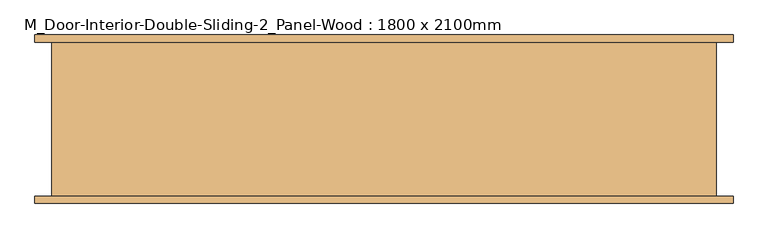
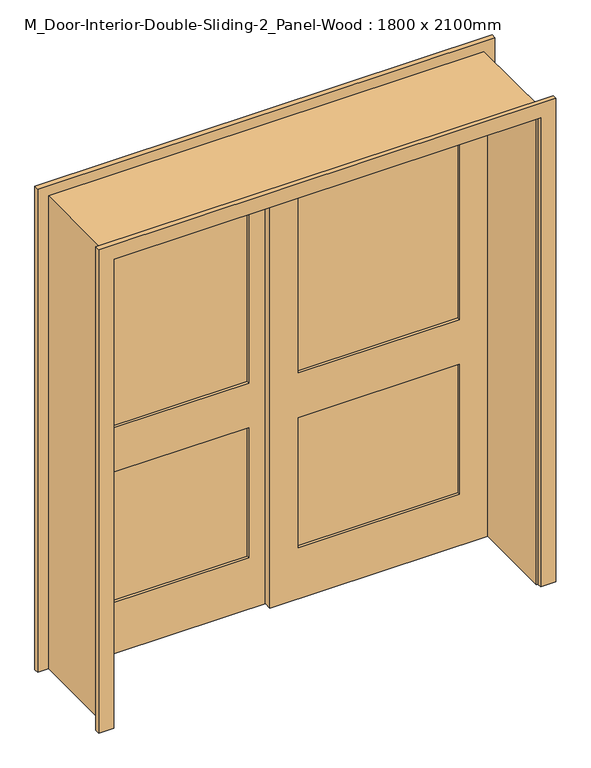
"""IFC4 building model written with IfcOpenShell, lengths in millimetres: door geometry, M_Door-Interior-Double-Sliding-2_Panel-Wood : 1800 x 2100mm."""

from ifc_helpers import new_model, si_unit, frame, origin, place, context, project, spatial, polyline, outline, extrude, source, transform, mapped, element, save


def m_door_interior_double_sliding_2_panel_wood_1800_x_2100mm_b8cd72e9(model_context):
    return source(origin(), model_context, "Body", "SweptSolid", [
        extrude(outline(polyline([(780.0, 152.9916667), (94.6, 152.9916667), (94.6, 164.6583333), (780.0, 164.6583333), (780.0, 152.9916667)])), frame((0.0, 0.0, 1014.4), z_axis=(0.0, 0.0, 1.0), x_axis=(1.0, 0.0, 0.0)), (0.0, 0.0, 1.0), 965.6),
        extrude(outline(polyline([(780.0, 152.9916667), (94.6, 152.9916667), (94.6, 164.6583333), (780.0, 164.6583333), (780.0, 152.9916667)])), frame((0.0, 0.0, 230.0), z_axis=(0.0, 0.0, 1.0), x_axis=(1.0, 0.0, 0.0)), (0.0, 0.0, 1.0), 584.4),
        extrude(outline(polyline([(2100.0, -25.4), (0.0, -25.4), (0.0, 900.0), (2100.0, 900.0), (2100.0, -25.4)]), holes=[polyline([(1980.0, 94.6), (1980.0, 780.0), (1014.4, 780.0), (1014.4, 94.6), (1980.0, 94.6)]), polyline([(814.4, 94.6), (814.4, 780.0), (230.0, 780.0), (230.0, 94.6), (814.4, 94.6)])]), frame((0.0, 141.325, 0.0), z_axis=(0.0, 1.0, 0.0), x_axis=(0.0, 0.0, 1.0)), (0.0, 0.0, 1.0), 35.0),
        extrude(outline(polyline([(-94.6, 187.9916667), (-780.0, 187.9916667), (-780.0, 199.6583333), (-94.6, 199.6583333), (-94.6, 187.9916667)])), frame((0.0, 0.0, 1014.4), z_axis=(0.0, 0.0, 1.0), x_axis=(1.0, 0.0, 0.0)), (0.0, 0.0, 1.0), 965.6),
        extrude(outline(polyline([(-94.6, 187.9916667), (-780.0, 187.9916667), (-780.0, 199.6583333), (-94.6, 199.6583333), (-94.6, 187.9916667)])), frame((0.0, 0.0, 230.0), z_axis=(0.0, 0.0, 1.0), x_axis=(1.0, 0.0, 0.0)), (0.0, 0.0, 1.0), 584.4),
        extrude(outline(polyline([(2100.0, -900.0), (0.0, -900.0), (0.0, 25.4), (2100.0, 25.4), (2100.0, -900.0)]), holes=[polyline([(1980.0, -780.0), (1980.0, -94.6), (1014.4, -94.6), (1014.4, -780.0), (1980.0, -780.0)]), polyline([(814.4, -780.0), (814.4, -94.6), (230.0, -94.6), (230.0, -780.0), (814.4, -780.0)])]), frame((0.0, 176.325, 0.0), z_axis=(0.0, 1.0, 0.0), x_axis=(0.0, 0.0, 1.0)), (0.0, 0.0, 1.0), 35.0),
        extrude(outline(polyline([(0.0, 900.0), (0.0, 925.0), (2125.0, 925.0), (2125.0, -925.0), (0.0, -925.0), (0.0, -900.0), (2100.0, -900.0), (2100.0, 900.0), (0.0, 900.0)])), frame((0.0, -217.675, 0.0), z_axis=(0.0, 1.0, 0.0), x_axis=(0.0, 0.0, 1.0)), (0.0, 0.0, 1.0), 429.0),
        extrude(outline(polyline([(0.0, 906.35), (0.0, 971.35), (2171.35, 971.35), (2171.35, -971.35), (0.0, -971.35), (0.0, -906.35), (2106.35, -906.35), (2106.35, 906.35), (0.0, 906.35)])), frame((0.0, -237.675, 0.0), z_axis=(0.0, 1.0, 0.0), x_axis=(0.0, 0.0, 1.0)), (0.0, 0.0, 1.0), 20.0),
        extrude(outline(polyline([(0.0, 906.35), (0.0, 971.35), (2171.35, 971.35), (2171.35, -971.35), (0.0, -971.35), (0.0, -906.35), (2106.35, -906.35), (2106.35, 906.35), (0.0, 906.35)])), frame((0.0, 211.325, 0.0), z_axis=(0.0, 1.0, 0.0), x_axis=(0.0, 0.0, 1.0)), (0.0, 0.0, 1.0), 20.0),
    ])


if __name__ == "__main__":
    model = new_model("IFC4")
    model_context = context("Model", 3, world=origin())
    ifc_project = project(units=[si_unit("LENGTHUNIT", "METRE", prefix="MILLI")], contexts=[model_context])
    site = spatial("IfcSite", under=ifc_project)
    building = spatial("IfcBuilding", under=site)
    placement = place(None, origin())
    m_door_interior_double_sliding_2_panel_wood_1800_x_2100mm_shape = m_door_interior_double_sliding_2_panel_wood_1800_x_2100mm_b8cd72e9(model_context)
    element("IfcDoor", 1, ObjectType="M_Door-Interior-Double-Sliding-2_Panel-Wood : 1800 x 2100mm", at=placement, inside=building, context=model_context, shape_type="MappedRepresentation", body=[
        mapped(m_door_interior_double_sliding_2_panel_wood_1800_x_2100mm_shape, transform((0.0, 0.0, 0.0), x_axis=(1.0, 0.0, 0.0), y_axis=(0.0, 1.0, 0.0), z_axis=(0.0, 0.0, 1.0))),
    ])
    save(model, "model.ifc")
